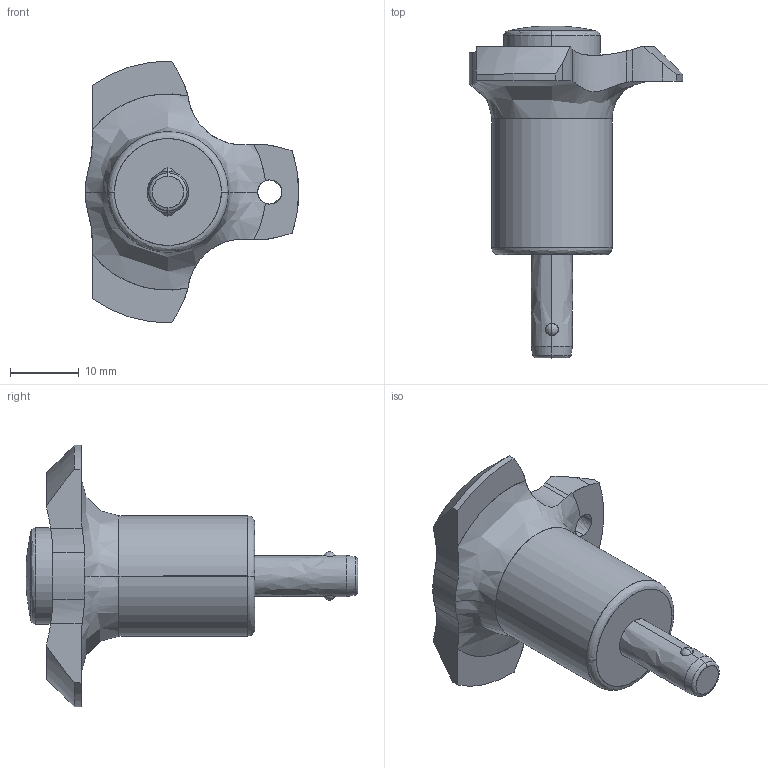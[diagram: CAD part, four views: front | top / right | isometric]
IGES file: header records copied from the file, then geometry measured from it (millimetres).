
Start section: SolidWorks IGES file using analytic representation for surfaces
Global section: file name: C:\Users\ianosborn\Desktop\33180_v2\33180_v2_20250106_IGES\33180.W0012.igs; native system: SolidWorks 2019; preprocessor: SolidWorks 2019; author: IanOsborn; date: 250106.111442; units: millimetre
Bounding box: 31 x 48.2 x 37.98 mm (x, y, z)
Surface area: 5966.4 mm2 (no closed solid volume)
Topology: 0 solids, 0 shells, 68 faces, 939 edges, 938 vertices
Faces by surface type: revolution 40, bspline 28
